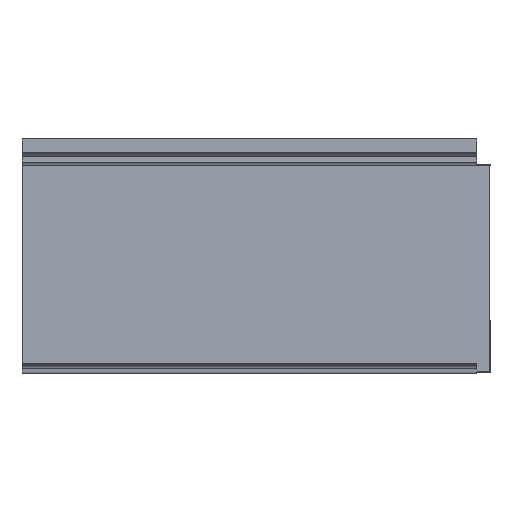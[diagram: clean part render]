
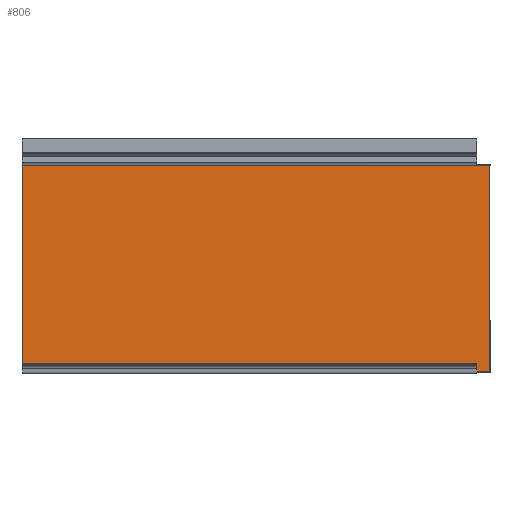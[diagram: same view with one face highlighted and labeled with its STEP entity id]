
A CAD part, top view. The second image highlights one B-rep face of the part: STEP entity #806.
In plain terms, the highlighted planar face has unit normal (0, 0, 1).
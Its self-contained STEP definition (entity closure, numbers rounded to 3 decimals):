
#34 = LINE ( 'NONE', #3999, #587 ) ;
#96 = EDGE_CURVE ( 'NONE', #1626, #171, #4170, .T. ) ;
#171 = VERTEX_POINT ( 'NONE', #1174 ) ;
#454 = DIRECTION ( 'NONE',  ( 1., 0., 0. ) ) ;
#564 = EDGE_CURVE ( 'NONE', #1626, #2003, #34, .T. ) ;
#580 = VERTEX_POINT ( 'NONE', #1332 ) ;
#587 = VECTOR ( 'NONE', #1641, 1000. ) ;
#605 = DIRECTION ( 'NONE',  ( -1., 0., 0. ) ) ;
#766 = AXIS2_PLACEMENT_3D ( 'NONE', #3990, #2638, #605 ) ;
#775 = ORIENTED_EDGE ( 'NONE', *, *, #96, .F. ) ;
#806 = ADVANCED_FACE ( 'NONE', ( #3806 ), #3313, .F. ) ;
#986 = ORIENTED_EDGE ( 'NONE', *, *, #1934, .T. ) ;
#1174 = CARTESIAN_POINT ( 'NONE',  ( 168.817, 58.351, 1. ) ) ;
#1312 = CARTESIAN_POINT ( 'NONE',  ( -168.817, -90.41, 1. ) ) ;
#1332 = CARTESIAN_POINT ( 'NONE',  ( 168.817, -90.41, 1. ) ) ;
#1422 = VECTOR ( 'NONE', #3988, 1000. ) ;
#1626 = VERTEX_POINT ( 'NONE', #2748 ) ;
#1641 = DIRECTION ( 'NONE',  ( 0., -1., 0. ) ) ;
#1694 = LINE ( 'NONE', #3944, #1422 ) ;
#1706 = ORIENTED_EDGE ( 'NONE', *, *, #3909, .T. ) ;
#1785 = DIRECTION ( 'NONE',  ( 0., 1., 0. ) ) ;
#1934 = EDGE_CURVE ( 'NONE', #2003, #580, #1694, .T. ) ;
#2003 = VERTEX_POINT ( 'NONE', #1312 ) ;
#2566 = VECTOR ( 'NONE', #1785, 1000. ) ;
#2581 = CARTESIAN_POINT ( 'NONE',  ( 0., 58.351, 1. ) ) ;
#2638 = DIRECTION ( 'NONE',  ( 0., 0., -1. ) ) ;
#2748 = CARTESIAN_POINT ( 'NONE',  ( -168.817, 58.351, 1. ) ) ;
#3217 = EDGE_LOOP ( 'NONE', ( #3817, #986, #1706, #775 ) ) ;
#3313 = PLANE ( 'NONE',  #766 ) ;
#3664 = VECTOR ( 'NONE', #454, 1000. ) ;
#3781 = CARTESIAN_POINT ( 'NONE',  ( 168.817, 101.283, 1. ) ) ;
#3806 = FACE_OUTER_BOUND ( 'NONE', #3217, .T. ) ;
#3817 = ORIENTED_EDGE ( 'NONE', *, *, #564, .T. ) ;
#3909 = EDGE_CURVE ( 'NONE', #580, #171, #4352, .T. ) ;
#3944 = CARTESIAN_POINT ( 'NONE',  ( 0., -90.41, 1. ) ) ;
#3988 = DIRECTION ( 'NONE',  ( 1., 0., 0. ) ) ;
#3990 = CARTESIAN_POINT ( 'NONE',  ( 0., 0., 1. ) ) ;
#3999 = CARTESIAN_POINT ( 'NONE',  ( -168.817, 101.282, 1. ) ) ;
#4170 = LINE ( 'NONE', #2581, #3664 ) ;
#4352 = LINE ( 'NONE', #3781, #2566 ) ;
